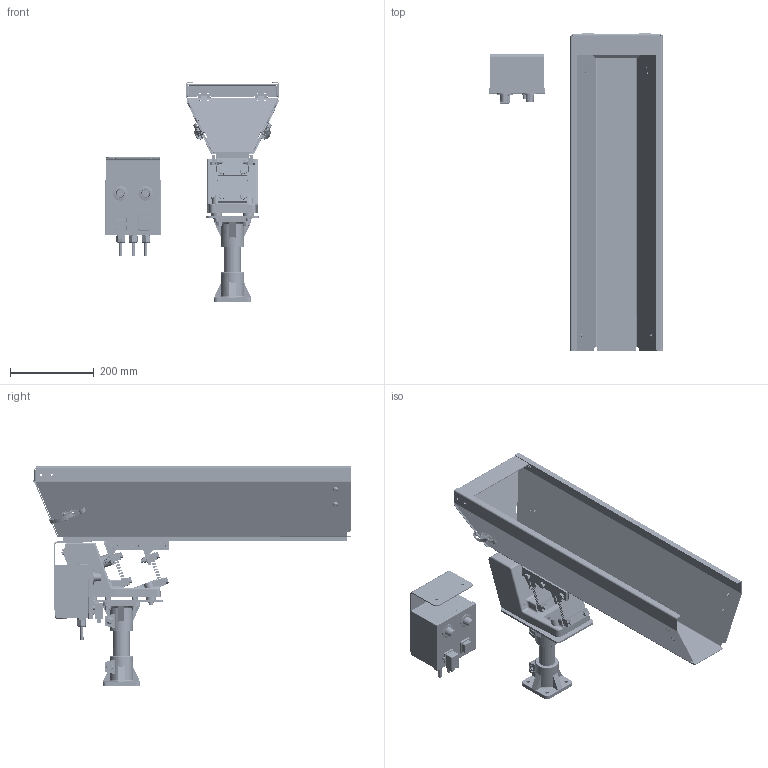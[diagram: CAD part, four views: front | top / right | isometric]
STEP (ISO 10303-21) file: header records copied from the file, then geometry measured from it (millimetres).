
FILE_DESCRIPTION (( 'STEP AP214' ), '1' );
FILE_NAME ('GM000290.STEP', '2021-11-16T14:34:30', ( '' ), ( '' ), 'SwSTEP 2.0', 'SolidWorks 2020', '' );
FILE_SCHEMA (( 'AUTOMOTIVE_DESIGN' ));
Length unit declared in the file: millimetre
Products named in the file (30): PD001016; CM000305; CM000305_002; PD001182_001; CM000064; PD001014; CM000029; CM000306; CM000305_001; CM000979; CM000934; CM000031; GM000290; CM000306_001; CE000026; PD001172; SM000080; PD001174; PD000067; PD001013; CM000432; PD001182_002; CM000306_003; CM000055; CM000561; CM000305_003; CM000306_002; CM000079; PD001182
Assembly tree (67 placements, depth 3):
  GM000290
    CM000561  x10
    CM000064  x4
    CM000031  x4
    CM000079  x4
    CM000029  x8
    CM000979  x6
    PD001182
      PD001182_001
      PD001182_002
    PD001172
    CM000305
      CM000305_001
      CM000305_003
      CM000305_002
    CM000305
      CM000305_001
      CM000305_003
      CM000305_002
    PD001174
    CM000306  x2
      CM000306_001
      CM000306_002
      CM000306_003
    PD001016
    PD001014
    CM000055
    PD001013
    PD000067
    CE000026
    CM000432  x2
    SM000080
    CM000934  x4
Bounding box: 415.32 x 760.5 x 524.84 mm (x, y, z)
Volume: 5535829.4 mm3; surface area: 1660490.5 mm2
Topology: 65 solids, 87 shells, 8553 faces, 23553 edges, 15289 vertices
Faces by surface type: cylinder 6338, plane 1419, cone 457, torus 183, sphere 126, bspline 30
Entity records: 124700 total; most frequent: CARTESIAN_POINT 38362, ORIENTED_EDGE 18418, DIRECTION 16147, EDGE_CURVE 9209, AXIS2_PLACEMENT_3D 6412, VERTEX_POINT 5858, EDGE_LOOP 3947, FACE_OUTER_BOUND 3597
